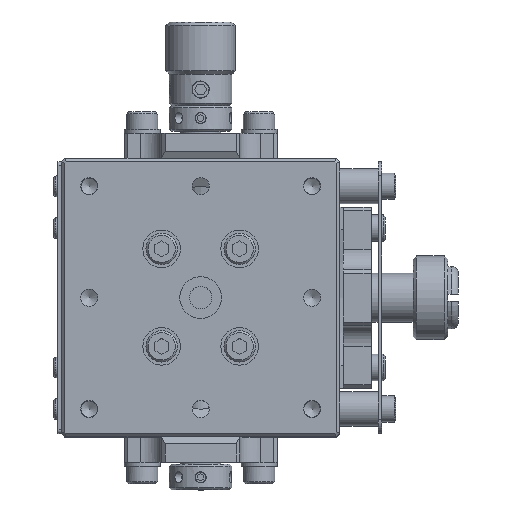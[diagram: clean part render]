
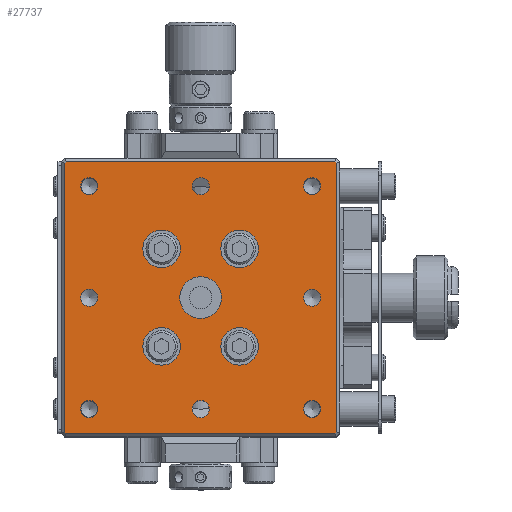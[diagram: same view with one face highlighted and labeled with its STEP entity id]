
A CAD part, top view. The second image highlights one B-rep face of the part: STEP entity #27737.
In plain terms, the highlighted planar face has unit normal (0, 0, 1).
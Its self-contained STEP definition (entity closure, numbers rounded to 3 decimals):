
#27290=CARTESIAN_POINT('',(-19.293,19.5,-20.0));
#27291=VERTEX_POINT('',#27290);
#27298=CARTESIAN_POINT('',(19.293,19.5,-20.0));
#27299=VERTEX_POINT('',#27298);
#27300=CARTESIAN_POINT('',(-19.293,19.5,-20.0));
#27301=DIRECTION('',(1.0,0.0,0.0));
#27302=VECTOR('',#27301,38.586);
#27303=LINE('',#27300,#27302);
#27304=EDGE_CURVE('',#27291,#27299,#27303,.T.);
#27320=CARTESIAN_POINT('',(-19.293,-19.5,-20.0));
#27321=VERTEX_POINT('',#27320);
#27322=CARTESIAN_POINT('',(-19.5,-19.293,-20.0));
#27323=VERTEX_POINT('',#27322);
#27324=CARTESIAN_POINT('',(-19.293,-19.5,-20.0));
#27325=DIRECTION('',(-0.707,0.707,0.0));
#27326=VECTOR('',#27325,0.293);
#27327=LINE('',#27324,#27326);
#27328=EDGE_CURVE('',#27321,#27323,#27327,.T.);
#27351=CARTESIAN_POINT('',(19.5,19.293,-20.0));
#27352=VERTEX_POINT('',#27351);
#27353=CARTESIAN_POINT('',(19.293,19.5,-20.0));
#27354=DIRECTION('',(0.707,-0.707,0.0));
#27355=VECTOR('',#27354,0.293);
#27356=LINE('',#27353,#27355);
#27357=EDGE_CURVE('',#27299,#27352,#27356,.T.);
#27380=CARTESIAN_POINT('',(19.293,-19.5,-20.0));
#27381=VERTEX_POINT('',#27380);
#27382=CARTESIAN_POINT('',(19.293,-19.5,-20.0));
#27383=DIRECTION('',(-1.0,0.0,0.0));
#27384=VECTOR('',#27383,38.586);
#27385=LINE('',#27382,#27384);
#27386=EDGE_CURVE('',#27381,#27321,#27385,.T.);
#27413=CARTESIAN_POINT('',(19.5,-19.293,-20.0));
#27414=VERTEX_POINT('',#27413);
#27415=CARTESIAN_POINT('',(19.5,19.293,-20.0));
#27416=DIRECTION('',(0.0,-1.0,0.0));
#27417=VECTOR('',#27416,38.586);
#27418=LINE('',#27415,#27417);
#27419=EDGE_CURVE('',#27352,#27414,#27418,.T.);
#27435=CARTESIAN_POINT('',(19.5,-19.293,-20.0));
#27436=DIRECTION('',(-0.707,-0.707,0.0));
#27437=VECTOR('',#27436,0.293);
#27438=LINE('',#27435,#27437);
#27439=EDGE_CURVE('',#27414,#27381,#27438,.T.);
#27456=CARTESIAN_POINT('',(-19.5,19.293,-20.0));
#27457=VERTEX_POINT('',#27456);
#27458=CARTESIAN_POINT('',(-19.5,-19.293,-20.0));
#27459=DIRECTION('',(0.0,1.0,0.0));
#27460=VECTOR('',#27459,38.586);
#27461=LINE('',#27458,#27460);
#27462=EDGE_CURVE('',#27323,#27457,#27461,.T.);
#27478=CARTESIAN_POINT('',(-19.5,19.293,-20.0));
#27479=DIRECTION('',(0.707,0.707,0.0));
#27480=VECTOR('',#27479,0.293);
#27481=LINE('',#27478,#27480);
#27482=EDGE_CURVE('',#27457,#27291,#27481,.T.);
#27579=CARTESIAN_POINT('',(0.0,20.0,-20.0));
#27580=DIRECTION('',(0.0,0.0,1.0));
#27581=DIRECTION('',(1.0,0.0,0.0));
#27582=AXIS2_PLACEMENT_3D('',#27579,#27580,#27581);
#27583=PLANE('',#27582);
#27584=ORIENTED_EDGE('',*,*,#27328,.F.);
#27585=ORIENTED_EDGE('',*,*,#27386,.F.);
#27586=ORIENTED_EDGE('',*,*,#27439,.F.);
#27587=ORIENTED_EDGE('',*,*,#27419,.F.);
#27588=ORIENTED_EDGE('',*,*,#27357,.F.);
#27589=ORIENTED_EDGE('',*,*,#27304,.F.);
#27590=ORIENTED_EDGE('',*,*,#27482,.F.);
#27591=ORIENTED_EDGE('',*,*,#27462,.F.);
#27592=EDGE_LOOP('',(#27584,#27585,#27586,#27587,#27588,#27589,#27590,#27591));
#27593=FACE_OUTER_BOUND('',#27592,.T.);
#27594=CARTESIAN_POINT('',(3.,0.0,-20.0));
#27595=VERTEX_POINT('',#27594);
#27596=CARTESIAN_POINT('',(0.0,0.0,-20.0));
#27597=DIRECTION('',(0.0,0.0,-1.0));
#27598=DIRECTION('',(1.0,0.0,0.0));
#27599=AXIS2_PLACEMENT_3D('',#27596,#27597,#27598);
#27600=CIRCLE('',#27599,3.);
#27601=EDGE_CURVE('',#27595,#27595,#27600,.T.);
#27602=ORIENTED_EDGE('',*,*,#27601,.T.);
#27603=EDGE_LOOP('',(#27602));
#27604=FACE_BOUND('',#27603,.T.);
#27605=CARTESIAN_POINT('',(8.3,7.,-20.0));
#27606=VERTEX_POINT('',#27605);
#27607=CARTESIAN_POINT('',(5.6,7.,-20.0));
#27608=DIRECTION('',(0.0,0.0,-1.0));
#27609=DIRECTION('',(1.0,0.0,0.0));
#27610=AXIS2_PLACEMENT_3D('',#27607,#27608,#27609);
#27611=CIRCLE('',#27610,2.7);
#27612=EDGE_CURVE('',#27606,#27606,#27611,.T.);
#27613=ORIENTED_EDGE('',*,*,#27612,.T.);
#27614=EDGE_LOOP('',(#27613));
#27615=FACE_BOUND('',#27614,.T.);
#27616=CARTESIAN_POINT('',(-2.9,7.,-20.0));
#27617=VERTEX_POINT('',#27616);
#27618=CARTESIAN_POINT('',(-5.6,7.,-20.0));
#27619=DIRECTION('',(0.0,0.0,-1.0));
#27620=DIRECTION('',(1.0,0.0,0.0));
#27621=AXIS2_PLACEMENT_3D('',#27618,#27619,#27620);
#27622=CIRCLE('',#27621,2.7);
#27623=EDGE_CURVE('',#27617,#27617,#27622,.T.);
#27624=ORIENTED_EDGE('',*,*,#27623,.T.);
#27625=EDGE_LOOP('',(#27624));
#27626=FACE_BOUND('',#27625,.T.);
#27627=CARTESIAN_POINT('',(-8.3,-7.,-20.0));
#27628=VERTEX_POINT('',#27627);
#27629=CARTESIAN_POINT('',(-5.6,-7.,-20.0));
#27630=DIRECTION('',(0.0,0.0,-1.0));
#27631=DIRECTION('',(-1.0,0.0,0.0));
#27632=AXIS2_PLACEMENT_3D('',#27629,#27630,#27631);
#27633=CIRCLE('',#27632,2.7);
#27634=EDGE_CURVE('',#27628,#27628,#27633,.T.);
#27635=ORIENTED_EDGE('',*,*,#27634,.T.);
#27636=EDGE_LOOP('',(#27635));
#27637=FACE_BOUND('',#27636,.T.);
#27638=CARTESIAN_POINT('',(2.9,-7.,-20.0));
#27639=VERTEX_POINT('',#27638);
#27640=CARTESIAN_POINT('',(5.6,-7.,-20.0));
#27641=DIRECTION('',(0.0,0.0,-1.0));
#27642=DIRECTION('',(-1.0,0.0,0.0));
#27643=AXIS2_PLACEMENT_3D('',#27640,#27641,#27642);
#27644=CIRCLE('',#27643,2.7);
#27645=EDGE_CURVE('',#27639,#27639,#27644,.T.);
#27646=ORIENTED_EDGE('',*,*,#27645,.T.);
#27647=EDGE_LOOP('',(#27646));
#27648=FACE_BOUND('',#27647,.T.);
#27649=CARTESIAN_POINT('',(-14.771,-16.0,-20.0));
#27650=VERTEX_POINT('',#27649);
#27651=CARTESIAN_POINT('',(-16.0,-16.0,-20.0));
#27652=DIRECTION('',(0.0,0.0,-1.0));
#27653=DIRECTION('',(1.0,0.0,0.0));
#27654=AXIS2_PLACEMENT_3D('',#27651,#27652,#27653);
#27655=CIRCLE('',#27654,1.23);
#27656=EDGE_CURVE('',#27650,#27650,#27655,.T.);
#27657=ORIENTED_EDGE('',*,*,#27656,.T.);
#27658=EDGE_LOOP('',(#27657));
#27659=FACE_BOUND('',#27658,.T.);
#27660=CARTESIAN_POINT('',(16.0,-14.771,-20.0));
#27661=VERTEX_POINT('',#27660);
#27662=CARTESIAN_POINT('',(16.0,-16.0,-20.0));
#27663=DIRECTION('',(0.0,0.0,-1.0));
#27664=DIRECTION('',(0.0,1.0,0.0));
#27665=AXIS2_PLACEMENT_3D('',#27662,#27663,#27664);
#27666=CIRCLE('',#27665,1.23);
#27667=EDGE_CURVE('',#27661,#27661,#27666,.T.);
#27668=ORIENTED_EDGE('',*,*,#27667,.T.);
#27669=EDGE_LOOP('',(#27668));
#27670=FACE_BOUND('',#27669,.T.);
#27671=CARTESIAN_POINT('',(14.771,16.0,-20.0));
#27672=VERTEX_POINT('',#27671);
#27673=CARTESIAN_POINT('',(16.0,16.0,-20.0));
#27674=DIRECTION('',(0.0,0.0,-1.0));
#27675=DIRECTION('',(-1.0,0.0,0.0));
#27676=AXIS2_PLACEMENT_3D('',#27673,#27674,#27675);
#27677=CIRCLE('',#27676,1.23);
#27678=EDGE_CURVE('',#27672,#27672,#27677,.T.);
#27679=ORIENTED_EDGE('',*,*,#27678,.T.);
#27680=EDGE_LOOP('',(#27679));
#27681=FACE_BOUND('',#27680,.T.);
#27682=CARTESIAN_POINT('',(-16.,14.771,-20.0));
#27683=VERTEX_POINT('',#27682);
#27684=CARTESIAN_POINT('',(-16.,16.,-20.0));
#27685=DIRECTION('',(0.0,0.0,-1.0));
#27686=DIRECTION('',(0.0,-1.0,0.0));
#27687=AXIS2_PLACEMENT_3D('',#27684,#27685,#27686);
#27688=CIRCLE('',#27687,1.23);
#27689=EDGE_CURVE('',#27683,#27683,#27688,.T.);
#27690=ORIENTED_EDGE('',*,*,#27689,.T.);
#27691=EDGE_LOOP('',(#27690));
#27692=FACE_BOUND('',#27691,.T.);
#27693=CARTESIAN_POINT('',(1.23,-16.0,-20.0));
#27694=VERTEX_POINT('',#27693);
#27695=CARTESIAN_POINT('',(0.0,-16.0,-20.0));
#27696=DIRECTION('',(0.0,0.0,-1.0));
#27697=DIRECTION('',(1.0,0.0,0.0));
#27698=AXIS2_PLACEMENT_3D('',#27695,#27696,#27697);
#27699=CIRCLE('',#27698,1.23);
#27700=EDGE_CURVE('',#27694,#27694,#27699,.T.);
#27701=ORIENTED_EDGE('',*,*,#27700,.T.);
#27702=EDGE_LOOP('',(#27701));
#27703=FACE_BOUND('',#27702,.T.);
#27704=CARTESIAN_POINT('',(-1.229,16.0,-20.0));
#27705=VERTEX_POINT('',#27704);
#27706=CARTESIAN_POINT('',(0.,16.0,-20.0));
#27707=DIRECTION('',(0.0,0.0,-1.0));
#27708=DIRECTION('',(-1.0,0.0,0.0));
#27709=AXIS2_PLACEMENT_3D('',#27706,#27707,#27708);
#27710=CIRCLE('',#27709,1.23);
#27711=EDGE_CURVE('',#27705,#27705,#27710,.T.);
#27712=ORIENTED_EDGE('',*,*,#27711,.T.);
#27713=EDGE_LOOP('',(#27712));
#27714=FACE_BOUND('',#27713,.T.);
#27715=CARTESIAN_POINT('',(17.23,0.0,-20.0));
#27716=VERTEX_POINT('',#27715);
#27717=CARTESIAN_POINT('',(16.0,0.0,-20.0));
#27718=DIRECTION('',(0.0,0.0,-1.0));
#27719=DIRECTION('',(1.0,0.0,0.0));
#27720=AXIS2_PLACEMENT_3D('',#27717,#27718,#27719);
#27721=CIRCLE('',#27720,1.23);
#27722=EDGE_CURVE('',#27716,#27716,#27721,.T.);
#27723=ORIENTED_EDGE('',*,*,#27722,.T.);
#27724=EDGE_LOOP('',(#27723));
#27725=FACE_BOUND('',#27724,.T.);
#27726=CARTESIAN_POINT('',(-17.23,0.,-20.0));
#27727=VERTEX_POINT('',#27726);
#27728=CARTESIAN_POINT('',(-16.0,0.,-20.0));
#27729=DIRECTION('',(0.0,0.0,-1.0));
#27730=DIRECTION('',(-1.0,0.0,0.0));
#27731=AXIS2_PLACEMENT_3D('',#27728,#27729,#27730);
#27732=CIRCLE('',#27731,1.23);
#27733=EDGE_CURVE('',#27727,#27727,#27732,.T.);
#27734=ORIENTED_EDGE('',*,*,#27733,.T.);
#27735=EDGE_LOOP('',(#27734));
#27736=FACE_BOUND('',#27735,.T.);
#27737=ADVANCED_FACE('',(#27593,#27604,#27615,#27626,#27637,#27648,#27659,#27670,#27681,#27692,#27703,#27714,#27725,#27736),#27583,.T.);
